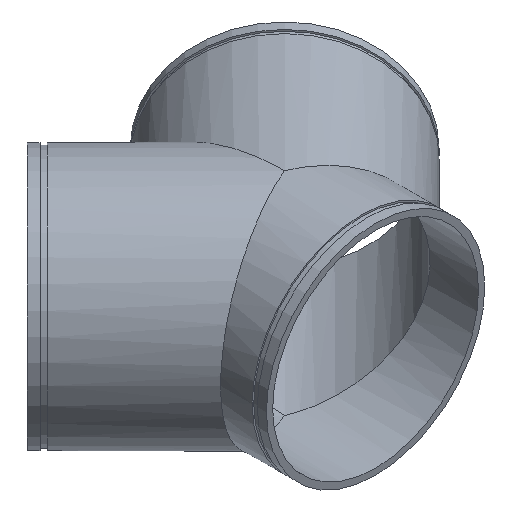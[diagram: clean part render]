
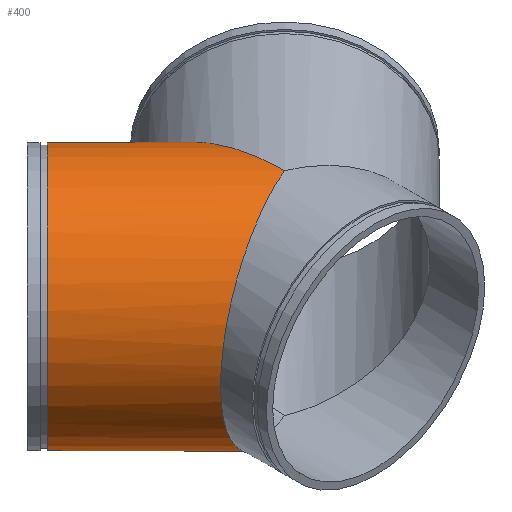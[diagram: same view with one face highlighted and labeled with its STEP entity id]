
A CAD part, isometric view. The second image highlights one B-rep face of the part: STEP entity #400.
In plain terms, the highlighted cylindrical face has radius 304.8 mm (diameter 609.6 mm), a full revolution.
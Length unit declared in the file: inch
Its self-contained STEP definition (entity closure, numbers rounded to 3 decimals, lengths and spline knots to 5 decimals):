
#76=FACE_OUTER_BOUND('',#103,.T.);
#103=EDGE_LOOP('',(#314,#315,#316,#317,#318,#319,#320,#321));
#118=ELLIPSE('',#470,16.97056,12.);
#119=ELLIPSE('',#471,12.98871,12.);
#120=ELLIPSE('',#472,12.98871,12.);
#121=ELLIPSE('',#473,16.97056,12.);
#131=LINE('',#735,#143);
#143=VECTOR('',#595,12.);
#156=CIRCLE('',#446,12.);
#157=CIRCLE('',#447,12.);
#186=VERTEX_POINT('',#686);
#187=VERTEX_POINT('',#687);
#202=VERTEX_POINT('',#730);
#203=VERTEX_POINT('',#731);
#204=VERTEX_POINT('',#733);
#205=VERTEX_POINT('',#736);
#223=EDGE_CURVE('',#186,#187,#156,.T.);
#224=EDGE_CURVE('',#187,#186,#157,.T.);
#243=EDGE_CURVE('',#202,#203,#118,.T.);
#244=EDGE_CURVE('',#204,#202,#119,.T.);
#245=EDGE_CURVE('',#204,#187,#131,.T.);
#246=EDGE_CURVE('',#205,#204,#120,.T.);
#247=EDGE_CURVE('',#203,#205,#121,.T.);
#314=ORIENTED_EDGE('',*,*,#243,.F.);
#315=ORIENTED_EDGE('',*,*,#244,.F.);
#316=ORIENTED_EDGE('',*,*,#245,.T.);
#317=ORIENTED_EDGE('',*,*,#224,.T.);
#318=ORIENTED_EDGE('',*,*,#223,.T.);
#319=ORIENTED_EDGE('',*,*,#245,.F.);
#320=ORIENTED_EDGE('',*,*,#246,.F.);
#321=ORIENTED_EDGE('',*,*,#247,.F.);
#359=CYLINDRICAL_SURFACE('',#469,12.);
#400=ADVANCED_FACE('',(#76),#359,.T.);
#446=AXIS2_PLACEMENT_3D('',#688,#539,#540);
#447=AXIS2_PLACEMENT_3D('',#689,#541,#542);
#469=AXIS2_PLACEMENT_3D('',#729,#589,#590);
#470=AXIS2_PLACEMENT_3D('',#732,#591,#592);
#471=AXIS2_PLACEMENT_3D('',#734,#593,#594);
#472=AXIS2_PLACEMENT_3D('',#737,#596,#597);
#473=AXIS2_PLACEMENT_3D('',#738,#598,#599);
#539=DIRECTION('center_axis',(0.707,-0.707,0.));
#540=DIRECTION('ref_axis',(0.707,0.707,0.));
#541=DIRECTION('center_axis',(0.707,-0.707,0.));
#542=DIRECTION('ref_axis',(0.707,0.707,0.));
#589=DIRECTION('center_axis',(0.707,-0.707,0.));
#590=DIRECTION('ref_axis',(0.707,0.707,0.));
#591=DIRECTION('center_axis',(1.,0.,0.));
#592=DIRECTION('ref_axis',(0.,1.,0.));
#593=DIRECTION('center_axis',(0.383,-0.924,0.));
#594=DIRECTION('ref_axis',(0.924,0.383,0.));
#595=DIRECTION('',(-0.707,0.707,0.));
#596=DIRECTION('center_axis',(0.383,-0.924,0.));
#597=DIRECTION('ref_axis',(0.924,0.383,0.));
#598=DIRECTION('center_axis',(1.,0.,0.));
#599=DIRECTION('ref_axis',(0.,1.,0.));
#686=CARTESIAN_POINT('',(-4.55165,21.52221,0.));
#687=CARTESIAN_POINT('',(-21.52221,4.55165,0.));
#688=CARTESIAN_POINT('Origin',(-13.03693,13.03693,0.));
#689=CARTESIAN_POINT('Origin',(-13.03693,13.03693,0.));
#729=CARTESIAN_POINT('Origin',(-14.14214,14.14214,0.));
#730=CARTESIAN_POINT('',(0.,0.,-12.));
#731=CARTESIAN_POINT('',(0.,16.97056,0.));
#732=CARTESIAN_POINT('Origin',(0.,0.,0.));
#733=CARTESIAN_POINT('',(-12.,-4.97056,0.));
#734=CARTESIAN_POINT('Origin',(0.,0.,0.));
#735=CARTESIAN_POINT('',(-22.62742,5.65685,0.));
#736=CARTESIAN_POINT('',(0.,0.,12.));
#737=CARTESIAN_POINT('Origin',(0.,0.,0.));
#738=CARTESIAN_POINT('Origin',(0.,0.,0.));
